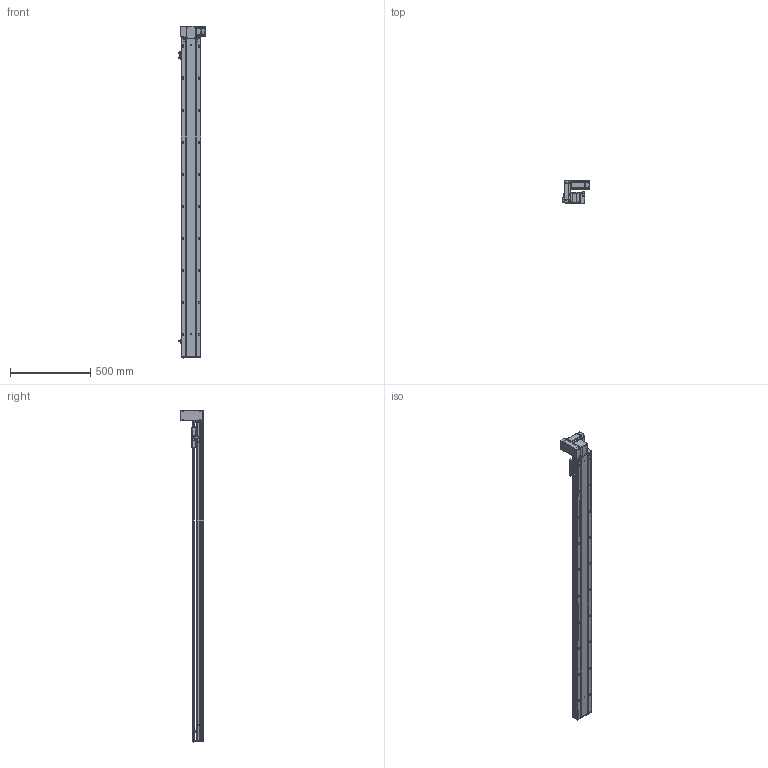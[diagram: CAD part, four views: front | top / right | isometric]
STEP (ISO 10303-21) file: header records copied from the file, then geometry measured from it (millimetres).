
FILE_DESCRIPTION (( 'STEP AP203' ), '1' );
FILE_NAME ('RY120-T-300-UL.SLDASM_1750.step', '2021-03-01T05:37:28', ( '盈信电脑' ), ( '东莞市道滘镇水果街19号' ), 'SwSTEP 2.0', 'SolidWorks 2012', '' );
FILE_SCHEMA (( 'CONFIG_CONTROL_DESIGN' ));
Length unit declared in the file: millimetre
Products named in the file (18): RY120-T-300-UL.SLDASM_1750; RY120-T萇儂欶; RY120-T蹟翐M4; 滅袉蝶18-10; RY120-T翋肮祭謫裔啣; 侂狟400W侜督萇儂; 15; RY120-T主同步轮轴承压盖; RY120-T萇儂假蚾啣; RY120-T翋肮祭盓傅釱; RY120-T肮祭湍揤踡輸1; RY120-T肮祭湍揤踡輸2; RY120肮祭湍臏賑輸; RY120外置感应片(140共用）; RY120綴裔啣; 覜茼ん672; RY120-T-300-UL倰第奻裔啣_1750; RY120-T-300-UL倰第菁釱_1750
Assembly tree (23 placements, depth 3):
  RY120-T-300-UL.SLDASM_1750
    RY120-T-300-UL倰第菁釱_1750
    RY120-T-300-UL倰第奻裔啣_1750
    RY120肮祭湍臏賑輸
    RY120綴裔啣
    覜茼ん672  x3
    RY120外置感应片(140共用）
    RY120-T肮祭湍揤踡輸1
    RY120-T肮祭湍揤踡輸2
    RY120-T翋肮祭盓傅釱
    RY120-T萇儂假蚾啣
    侂狟400W侜督萇儂
      15
    RY120-T主同步轮轴承压盖
    滅袉蝶18-10  x2
    RY120-T萇儂欶
    RY120-T蹟翐M4  x4
    RY120-T翋肮祭謫裔啣
Bounding box: 164.2 x 146 x 2071 mm (x, y, z)
Volume: 5259163.7 mm3; surface area: 2001393.9 mm2
Topology: 23 solids, 23 shells, 3042 faces, 8316 edges, 5304 vertices
Faces by surface type: plane 1442, cylinder 1204, cone 307, bspline 89
Entity records: 97688 total; most frequent: CARTESIAN_POINT 25340, ORIENTED_EDGE 14952, DIRECTION 14122, EDGE_CURVE 7476, VERTEX_POINT 4891, AXIS2_PLACEMENT_3D 4785, LINE 4552, VECTOR 4552
